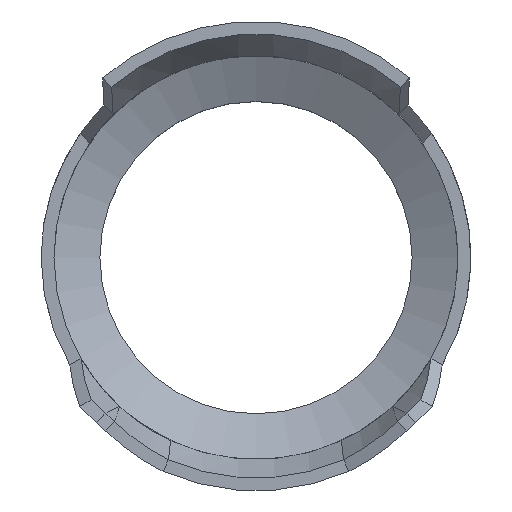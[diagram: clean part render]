
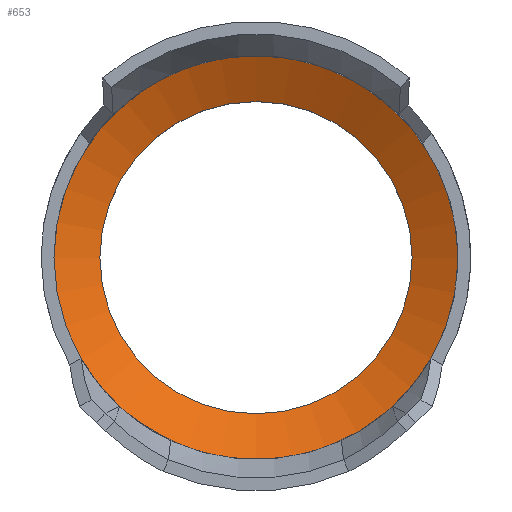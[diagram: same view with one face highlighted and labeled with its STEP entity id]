
A CAD part, top view. The second image highlights one B-rep face of the part: STEP entity #653.
In plain terms, the highlighted conical face has half-angle 63.502 degrees and reference radius 9.75 mm.
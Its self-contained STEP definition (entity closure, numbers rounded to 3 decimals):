
#87=CONICAL_SURFACE('',#727,9.75,1.108);
#103=CIRCLE('',#710,11.);
#111=CIRCLE('',#728,8.5);
#153=FACE_OUTER_BOUND('',#196,.T.);
#196=EDGE_LOOP('',(#585,#586,#587,#588));
#218=LINE('',#1467,#238);
#238=VECTOR('',#867,9.75);
#296=VERTEX_POINT('',#1437);
#302=VERTEX_POINT('',#1466);
#383=EDGE_CURVE('',#296,#296,#103,.T.);
#397=EDGE_CURVE('',#296,#302,#218,.T.);
#398=EDGE_CURVE('',#302,#302,#111,.T.);
#585=ORIENTED_EDGE('',*,*,#383,.T.);
#586=ORIENTED_EDGE('',*,*,#397,.T.);
#587=ORIENTED_EDGE('',*,*,#398,.F.);
#588=ORIENTED_EDGE('',*,*,#397,.F.);
#653=ADVANCED_FACE('',(#153),#87,.F.);
#710=AXIS2_PLACEMENT_3D('',#1439,#827,#828);
#727=AXIS2_PLACEMENT_3D('',#1465,#865,#866);
#728=AXIS2_PLACEMENT_3D('',#1468,#868,#869);
#827=DIRECTION('center_axis',(0.,0.,1.));
#828=DIRECTION('ref_axis',(1.,0.,0.));
#865=DIRECTION('center_axis',(0.,0.,1.));
#866=DIRECTION('ref_axis',(1.,0.,0.));
#867=DIRECTION('',(0.895,0.,-0.446));
#868=DIRECTION('center_axis',(0.,0.,1.));
#869=DIRECTION('ref_axis',(1.,0.,0.));
#1437=CARTESIAN_POINT('',(-11.,0.,5.446));
#1439=CARTESIAN_POINT('Origin',(0.,0.,5.446));
#1465=CARTESIAN_POINT('Origin',(0.,0.,4.823));
#1466=CARTESIAN_POINT('',(-8.5,0.,4.2));
#1467=CARTESIAN_POINT('',(-9.75,0.,4.823));
#1468=CARTESIAN_POINT('Origin',(0.,0.,4.2));
